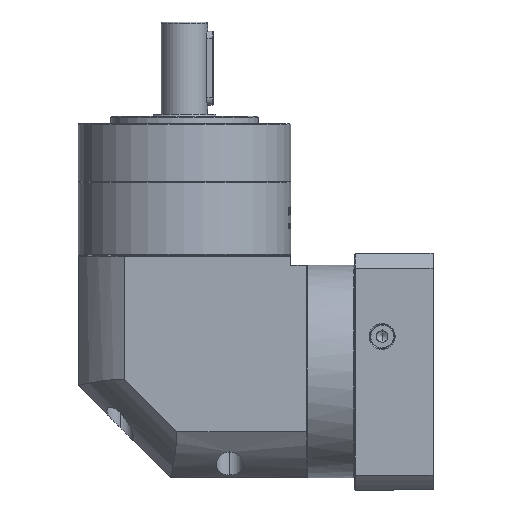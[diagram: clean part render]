
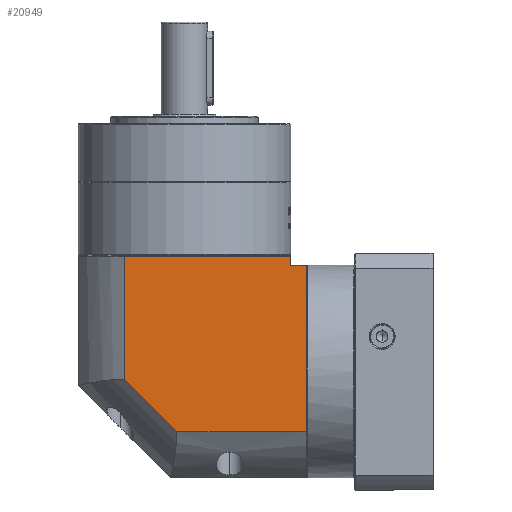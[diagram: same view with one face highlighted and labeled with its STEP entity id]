
A CAD part, left-side view. The second image highlights one B-rep face of the part: STEP entity #20949.
In plain terms, the highlighted planar face has unit normal (-1, 0, 0).
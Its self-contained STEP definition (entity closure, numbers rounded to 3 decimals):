
#1244 = AXIS2_PLACEMENT_3D ( 'NONE', #174173, #49809, #147780 ) ;
#7765 = LINE ( 'NONE', #116515, #115200 ) ;
#10061 = CARTESIAN_POINT ( 'NONE',  ( -275.738, 0.124, -17.132 ) ) ;
#15215 = EDGE_LOOP ( 'NONE', ( #77014, #171389, #84172, #16977, #85809, #107203, #46224 ) ) ;
#16558 = DIRECTION ( 'NONE',  ( 0., 1., 0. ) ) ;
#16977 = ORIENTED_EDGE ( 'NONE', *, *, #115971, .F. ) ;
#20949 = ADVANCED_FACE ( 'NONE', ( #32413 ), #131937, .F. ) ;
#26253 = VERTEX_POINT ( 'NONE', #118985 ) ;
#29103 = LINE ( 'NONE', #153778, #143158 ) ;
#32413 = FACE_OUTER_BOUND ( 'NONE', #15215, .T. ) ;
#32560 = DIRECTION ( 'NONE',  ( 0., 0.707, 0.707 ) ) ;
#44580 = EDGE_CURVE ( 'NONE', #80671, #67795, #168465, .T. ) ;
#44752 = VERTEX_POINT ( 'NONE', #66376 ) ;
#45191 = CARTESIAN_POINT ( 'NONE',  ( -275.738, -89.776, 44.43 ) ) ;
#46224 = ORIENTED_EDGE ( 'NONE', *, *, #101476, .F. ) ;
#49809 = DIRECTION ( 'NONE',  ( 1., 0., 0. ) ) ;
#57103 = DIRECTION ( 'NONE',  ( 0., -1., 0. ) ) ;
#62163 = DIRECTION ( 'NONE',  ( 0., 0., 1. ) ) ;
#63523 = VECTOR ( 'NONE', #106546, 1000. ) ;
#66376 = CARTESIAN_POINT ( 'NONE',  ( -275.738, 0.124, 49.43 ) ) ;
#67599 = EDGE_CURVE ( 'NONE', #96901, #26253, #95494, .T. ) ;
#67795 = VERTEX_POINT ( 'NONE', #107870 ) ;
#71494 = VECTOR ( 'NONE', #16558, 1000. ) ;
#73619 = CARTESIAN_POINT ( 'NONE',  ( -275.738, 25.224, -45.47 ) ) ;
#75638 = CARTESIAN_POINT ( 'NONE',  ( -275.738, -89.776, -70.57 ) ) ;
#77014 = ORIENTED_EDGE ( 'NONE', *, *, #77045, .F. ) ;
#77045 = EDGE_CURVE ( 'NONE', #127901, #44752, #103793, .T. ) ;
#80671 = VERTEX_POINT ( 'NONE', #45191 ) ;
#84137 = LINE ( 'NONE', #181961, #165157 ) ;
#84172 = ORIENTED_EDGE ( 'NONE', *, *, #67599, .F. ) ;
#85809 = ORIENTED_EDGE ( 'NONE', *, *, #130359, .T. ) ;
#93510 = CARTESIAN_POINT ( 'NONE',  ( -275.738, 0.124, 55.93 ) ) ;
#95224 = VERTEX_POINT ( 'NONE', #114913 ) ;
#95494 = LINE ( 'NONE', #73619, #71494 ) ;
#96901 = VERTEX_POINT ( 'NONE', #130709 ) ;
#101476 = EDGE_CURVE ( 'NONE', #44752, #67795, #29103, .T. ) ;
#102719 = VECTOR ( 'NONE', #62163, 1000. ) ;
#103793 = LINE ( 'NONE', #93510, #169533 ) ;
#106546 = DIRECTION ( 'NONE',  ( 0., 0., -1. ) ) ;
#107203 = ORIENTED_EDGE ( 'NONE', *, *, #44580, .T. ) ;
#107870 = CARTESIAN_POINT ( 'NONE',  ( -275.738, -89.776, 49.43 ) ) ;
#108216 = DIRECTION ( 'NONE',  ( 0., 0., 1. ) ) ;
#111437 = DIRECTION ( 'NONE',  ( 0., 1., 0. ) ) ;
#114913 = CARTESIAN_POINT ( 'NONE',  ( -275.738, -98.176, 44.43 ) ) ;
#115200 = VECTOR ( 'NONE', #32560, 1000. ) ;
#115971 = EDGE_CURVE ( 'NONE', #95224, #96901, #129218, .T. ) ;
#116515 = CARTESIAN_POINT ( 'NONE',  ( -275.738, -28.214, -45.47 ) ) ;
#118985 = CARTESIAN_POINT ( 'NONE',  ( -275.738, -28.214, -45.47 ) ) ;
#127901 = VERTEX_POINT ( 'NONE', #10061 ) ;
#129218 = LINE ( 'NONE', #149974, #63523 ) ;
#130359 = EDGE_CURVE ( 'NONE', #95224, #80671, #84137, .T. ) ;
#130709 = CARTESIAN_POINT ( 'NONE',  ( -275.738, -98.176, -45.47 ) ) ;
#131937 = PLANE ( 'NONE',  #1244 ) ;
#143158 = VECTOR ( 'NONE', #57103, 1000. ) ;
#146940 = EDGE_CURVE ( 'NONE', #26253, #127901, #7765, .T. ) ;
#147780 = DIRECTION ( 'NONE',  ( 0., 1., 0. ) ) ;
#149974 = CARTESIAN_POINT ( 'NONE',  ( -275.738, -98.176, 55.93 ) ) ;
#153778 = CARTESIAN_POINT ( 'NONE',  ( -275.738, 25.224, 49.43 ) ) ;
#165157 = VECTOR ( 'NONE', #111437, 1000. ) ;
#168465 = LINE ( 'NONE', #75638, #102719 ) ;
#169533 = VECTOR ( 'NONE', #108216, 1000. ) ;
#171389 = ORIENTED_EDGE ( 'NONE', *, *, #146940, .F. ) ;
#174173 = CARTESIAN_POINT ( 'NONE',  ( -275.738, 25.224, 55.93 ) ) ;
#181961 = CARTESIAN_POINT ( 'NONE',  ( -275.738, -89.776, 44.43 ) ) ;
